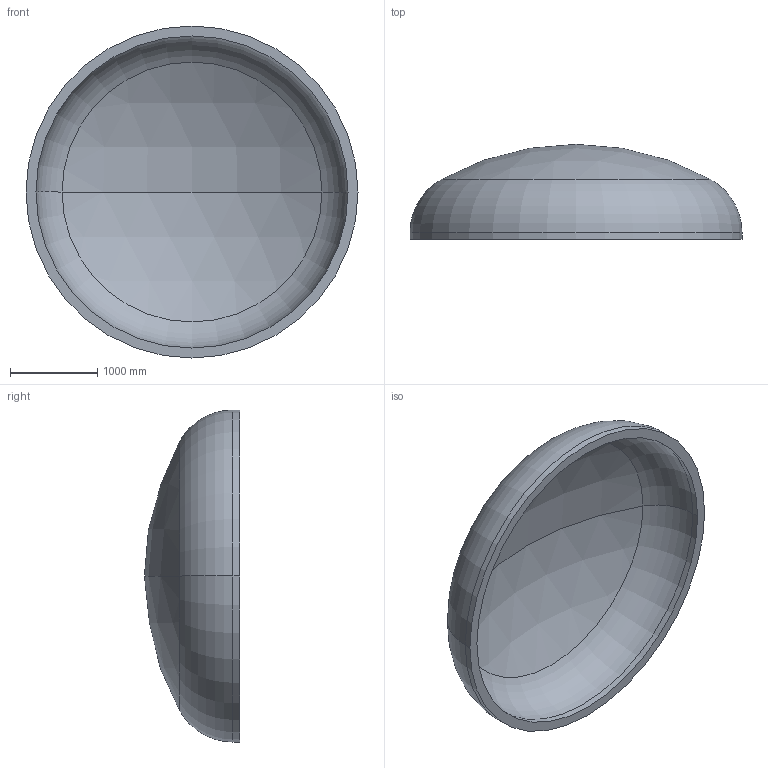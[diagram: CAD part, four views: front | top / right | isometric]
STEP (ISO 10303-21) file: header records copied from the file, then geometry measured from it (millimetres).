
FILE_DESCRIPTION (( 'STEP AP203' ), '1' );
FILE_NAME ('DIN 28013 Korbbogenform_-_Boden DIN 28013 - 3800 x 75 - I - s=114.step', '2016-07-01T21:53:12', ( '' ), ( '' ), 'SwSTEP 2.0', 'SolidWorks 2013', '' );
FILE_SCHEMA (( 'CONFIG_CONTROL_DESIGN' ));
Length unit declared in the file: millimetre
Products named in the file (1): DIN 28013 Korbbogenform_-_Boden DIN 28013 - 3800 x 75 - I - s=114
Bounding box: 3800 x 1087.83 x 3800 mm (x, y, z)
Volume: 1820704177.3 mm3; surface area: 33289496.2 mm2
Topology: 1 solids, 1 shells, 13 faces, 24 edges, 14 vertices
Faces by surface type: torus 4, cylinder 4, sphere 4, plane 1
Entity records: 407 total; most frequent: DIRECTION 72, CARTESIAN_POINT 52, ORIENTED_EDGE 48, AXIS2_PLACEMENT_3D 34, EDGE_CURVE 24, CIRCLE 20, EDGE_LOOP 14, VERTEX_POINT 14
